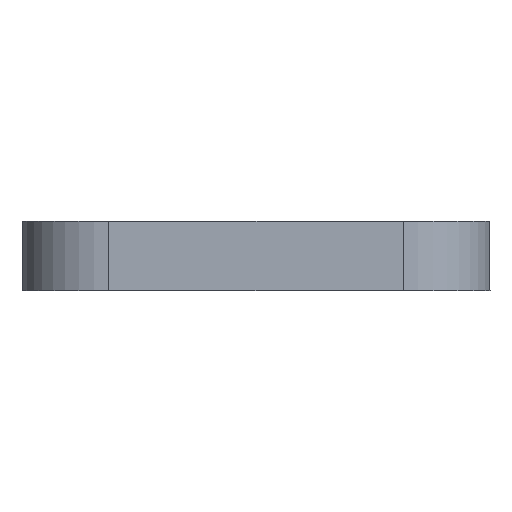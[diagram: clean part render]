
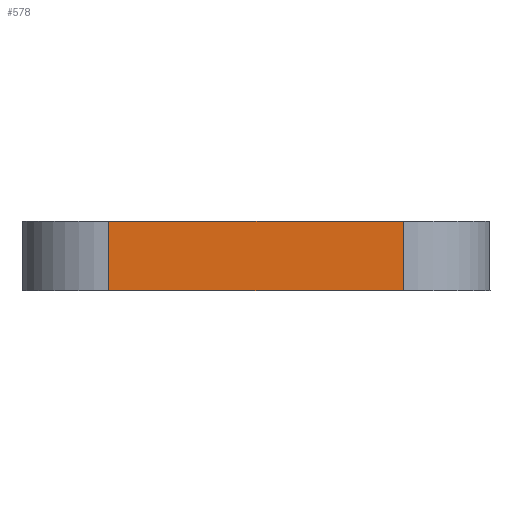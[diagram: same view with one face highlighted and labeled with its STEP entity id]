
A CAD part, front view. The second image highlights one B-rep face of the part: STEP entity #578.
In plain terms, the highlighted planar face has unit normal (0, -1, 0).
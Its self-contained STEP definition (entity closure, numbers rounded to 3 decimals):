
#54 = CARTESIAN_POINT ( 'NONE',  ( -8.5, -42.5, 0. ) ) ;
#90 = VECTOR ( 'NONE', #467, 1000. ) ;
#117 = DIRECTION ( 'NONE',  ( 0., 0., 1. ) ) ;
#139 = ORIENTED_EDGE ( 'NONE', *, *, #884, .F. ) ;
#173 = DIRECTION ( 'NONE',  ( 0., -1., 0. ) ) ;
#235 = CARTESIAN_POINT ( 'NONE',  ( -13.5, -42.5, -4. ) ) ;
#271 = CARTESIAN_POINT ( 'NONE',  ( 8.5, -42.5, 0. ) ) ;
#276 = VECTOR ( 'NONE', #117, 1000. ) ;
#303 = EDGE_CURVE ( 'NONE', #360, #348, #347, .T. ) ;
#309 = LINE ( 'NONE', #235, #90 ) ;
#317 = CARTESIAN_POINT ( 'NONE',  ( -8.5, -42.5, -4. ) ) ;
#321 = VERTEX_POINT ( 'NONE', #778 ) ;
#347 = LINE ( 'NONE', #856, #276 ) ;
#348 = VERTEX_POINT ( 'NONE', #271 ) ;
#360 = VERTEX_POINT ( 'NONE', #420 ) ;
#385 = DIRECTION ( 'NONE',  ( 1., 0., 0. ) ) ;
#420 = CARTESIAN_POINT ( 'NONE',  ( 8.5, -42.5, -4. ) ) ;
#457 = AXIS2_PLACEMENT_3D ( 'NONE', #541, #173, #611 ) ;
#463 = FACE_OUTER_BOUND ( 'NONE', #855, .T. ) ;
#467 = DIRECTION ( 'NONE',  ( 1., 0., 0. ) ) ;
#491 = DIRECTION ( 'NONE',  ( 0., 0., -1. ) ) ;
#541 = CARTESIAN_POINT ( 'NONE',  ( -13.5, -42.5, -4. ) ) ;
#550 = PLANE ( 'NONE',  #457 ) ;
#578 = ADVANCED_FACE ( 'NONE', ( #463 ), #550, .T. ) ;
#611 = DIRECTION ( 'NONE',  ( 0., 0., -1. ) ) ;
#676 = LINE ( 'NONE', #317, #694 ) ;
#694 = VECTOR ( 'NONE', #491, 1000. ) ;
#696 = EDGE_CURVE ( 'NONE', #321, #360, #309, .T. ) ;
#697 = VECTOR ( 'NONE', #385, 1000. ) ;
#707 = ORIENTED_EDGE ( 'NONE', *, *, #696, .T. ) ;
#708 = ORIENTED_EDGE ( 'NONE', *, *, #717, .T. ) ;
#717 = EDGE_CURVE ( 'NONE', #738, #321, #676, .T. ) ;
#738 = VERTEX_POINT ( 'NONE', #54 ) ;
#739 = CARTESIAN_POINT ( 'NONE',  ( -13.5, -42.5, 0. ) ) ;
#778 = CARTESIAN_POINT ( 'NONE',  ( -8.5, -42.5, -4. ) ) ;
#814 = LINE ( 'NONE', #739, #697 ) ;
#855 = EDGE_LOOP ( 'NONE', ( #139, #708, #707, #915 ) ) ;
#856 = CARTESIAN_POINT ( 'NONE',  ( 8.5, -42.5, -4. ) ) ;
#884 = EDGE_CURVE ( 'NONE', #738, #348, #814, .T. ) ;
#915 = ORIENTED_EDGE ( 'NONE', *, *, #303, .T. ) ;
